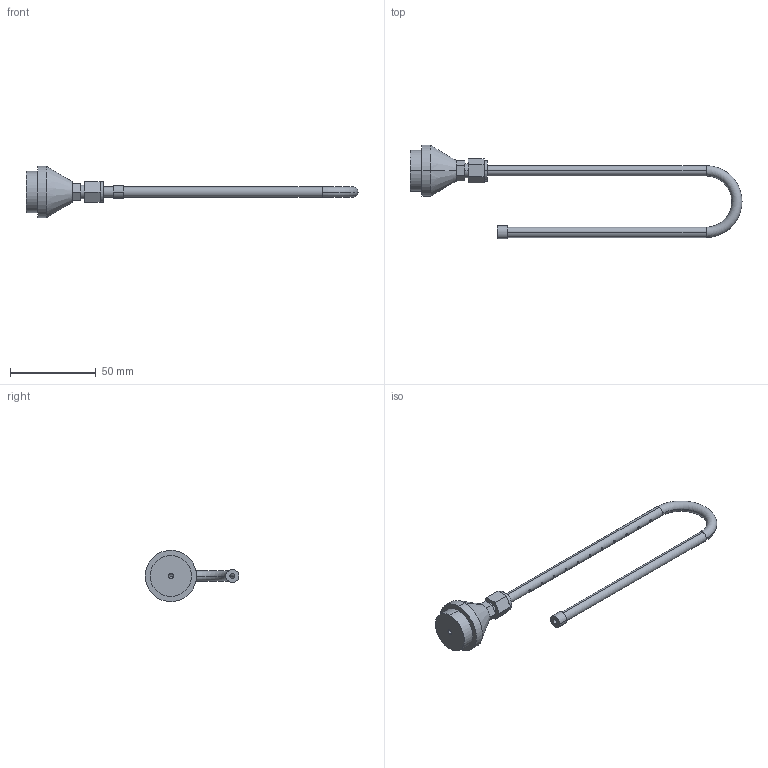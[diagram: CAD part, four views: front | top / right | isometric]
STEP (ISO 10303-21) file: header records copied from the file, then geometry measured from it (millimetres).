
FILE_DESCRIPTION (( 'STEP AP203' ), '1' );
FILE_NAME ('ER-AU10.STEP', '2005-09-08T05:53:32', ( '' ), ( '' ), 'SwSTEP 2.0', 'SolidWorks 2004073', '' );
FILE_SCHEMA (( 'CONFIG_CONTROL_DESIGN' ));
Length unit declared in the file: millimetre
Products named in the file (1): ER-AU10
Bounding box: 194 x 54.8 x 30 mm (x, y, z)
Volume: 20370.9 mm3; surface area: 13019.7 mm2
Topology: 1 solids, 1 shells, 94 faces, 248 edges, 162 vertices
Faces by surface type: cylinder 62, plane 26, torus 4, cone 2
Entity records: 3891 total; most frequent: CARTESIAN_POINT 1517, ORIENTED_EDGE 496, DIRECTION 404, EDGE_CURVE 248, VERTEX_POINT 162, AXIS2_PLACEMENT_3D 149, EDGE_LOOP 146, VECTOR 106
